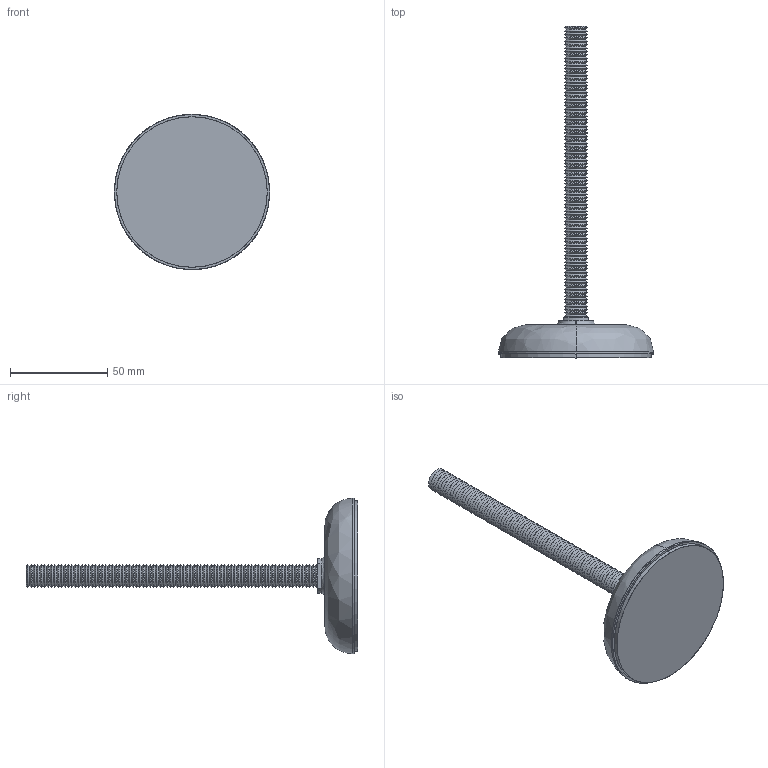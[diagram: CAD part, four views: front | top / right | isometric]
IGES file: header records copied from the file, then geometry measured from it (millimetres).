
Start section: SolidWorks IGES file using analytic representation for surfaces
Global section: file name: C:\Documents and Settings\IANO\Desktop\Temp File\Process pending\EXISTING\34780_v2\34780_v2_20170626_IGES\34780.W0128.igs; native system: SolidWorks 2009; preprocessor: SolidWorks 2009; author: IANO; date: 170626.122508; units: millimetre
Bounding box: 80 x 171 x 80 mm (x, y, z)
Surface area: 45338.3 mm2 (no closed solid volume)
Topology: 0 solids, 0 shells, 416 faces, 2578 edges, 2578 vertices
Faces by surface type: revolution 388, bspline 28
